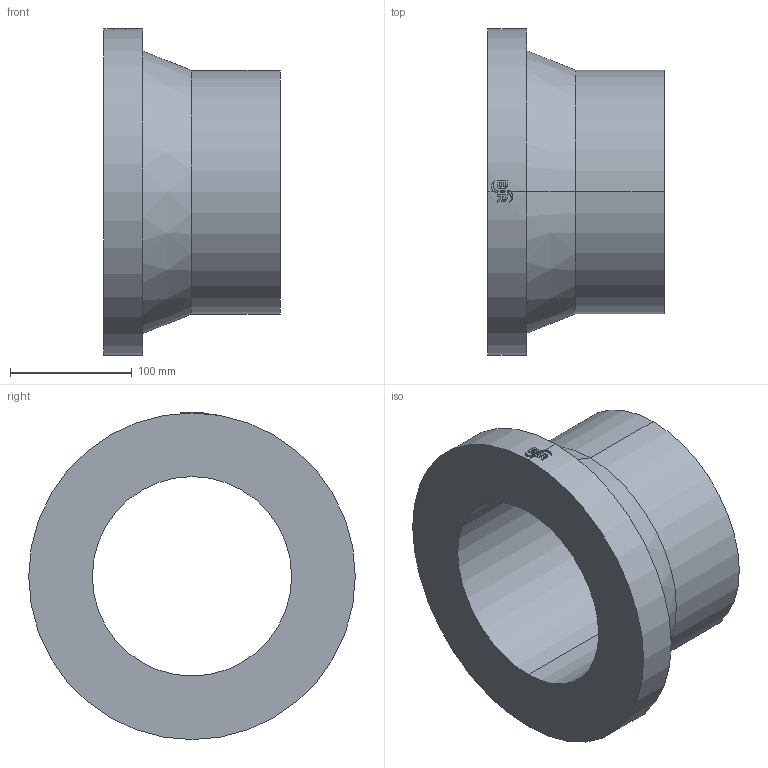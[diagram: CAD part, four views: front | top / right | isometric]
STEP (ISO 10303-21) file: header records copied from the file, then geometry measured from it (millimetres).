
FILE_DESCRIPTION (( 'STEP AP214' ), '1' );
FILE_NAME ('233519F015.STEP', '2018-07-20T12:19:58', ( '' ), ( '' ), 'SwSTEP 2.0', 'SolidWorks 2017', '' );
FILE_SCHEMA (( 'AUTOMOTIVE_DESIGN' ));
Length unit declared in the file: millimetre
Products named in the file (1): 233519F015
Bounding box: 145 x 268 x 268.5 mm (x, y, z)
Volume: 2518907.1 mm3; surface area: 236566.1 mm2
Topology: 1 solids, 1 shells, 60 faces, 154 edges, 102 vertices
Faces by surface type: cylinder 29, plane 29, cone 2
Entity records: 2920 total; most frequent: CARTESIAN_POINT 803, ORIENTED_EDGE 308, DIRECTION 282, EDGE_CURVE 154, AXIS2_PLACEMENT_3D 107, VERTEX_POINT 102, VECTOR 68, LINE 68
